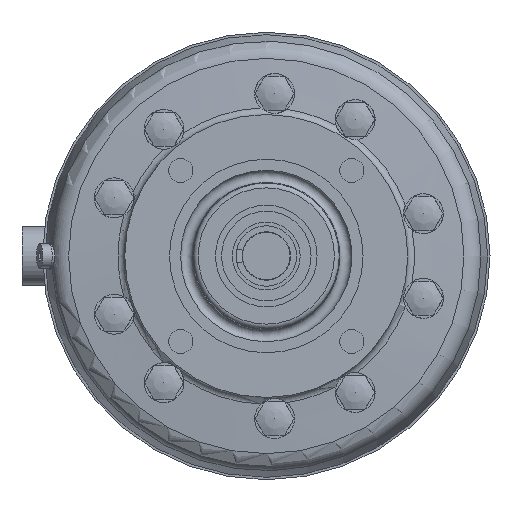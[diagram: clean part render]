
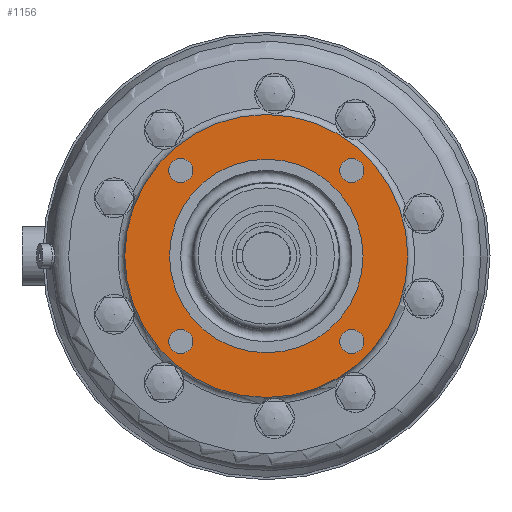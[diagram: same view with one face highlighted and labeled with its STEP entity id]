
A CAD part, front view. The second image highlights one B-rep face of the part: STEP entity #1156.
In plain terms, the highlighted planar face has unit normal (0, -1, 0) as drawn and (0, 1, 0) by its records, which use the part's own axes.
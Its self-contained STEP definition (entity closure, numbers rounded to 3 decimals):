
#1156 = ADVANCED_FACE( '', ( #2355, #2356, #2357, #2358, #2359, #2360 ), #2361, .T. );
#2355 = FACE_BOUND( '', #3465, .T. );
#2356 = FACE_BOUND( '', #3466, .T. );
#2357 = FACE_BOUND( '', #3467, .T. );
#2358 = FACE_BOUND( '', #3468, .T. );
#2359 = FACE_BOUND( '', #3469, .T. );
#2360 = FACE_OUTER_BOUND( '', #3470, .T. );
#2361 = PLANE( '', #3471 );
#3465 = EDGE_LOOP( '', ( #5453 ) );
#3466 = EDGE_LOOP( '', ( #5454 ) );
#3467 = EDGE_LOOP( '', ( #5455 ) );
#3468 = EDGE_LOOP( '', ( #5456 ) );
#3469 = EDGE_LOOP( '', ( #5457 ) );
#3470 = EDGE_LOOP( '', ( #5458 ) );
#3471 = AXIS2_PLACEMENT_3D( '', #5459, #5460, #5461 );
#5453 = ORIENTED_EDGE( '', *, *, #6165, .T. );
#5454 = ORIENTED_EDGE( '', *, *, #5925, .F. );
#5455 = ORIENTED_EDGE( '', *, *, #6132, .F. );
#5456 = ORIENTED_EDGE( '', *, *, #6065, .F. );
#5457 = ORIENTED_EDGE( '', *, *, #6181, .F. );
#5458 = ORIENTED_EDGE( '', *, *, #5966, .F. );
#5459 = CARTESIAN_POINT( '', ( 58.5, 36., 0. ) );
#5460 = DIRECTION( '', ( 0., 1., 0. ) );
#5461 = DIRECTION( '', ( 0., 0., 1. ) );
#5925 = EDGE_CURVE( '', #6928, #6928, #6929, .T. );
#5966 = EDGE_CURVE( '', #6990, #6990, #6991, .T. );
#6065 = EDGE_CURVE( '', #7130, #7130, #7131, .T. );
#6132 = EDGE_CURVE( '', #7213, #7213, #7214, .T. );
#6165 = EDGE_CURVE( '', #7251, #7251, #7252, .T. );
#6181 = EDGE_CURVE( '', #7272, #7272, #7273, .T. );
#6928 = VERTEX_POINT( '', #10214 );
#6929 = CIRCLE( '', #10215, 5. );
#6990 = VERTEX_POINT( '', #10325 );
#6991 = CIRCLE( '', #10326, 58.5 );
#7130 = VERTEX_POINT( '', #10578 );
#7131 = CIRCLE( '', #10579, 5. );
#7213 = VERTEX_POINT( '', #10991 );
#7214 = CIRCLE( '', #10992, 5. );
#7251 = VERTEX_POINT( '', #11232 );
#7252 = CIRCLE( '', #11233, 40. );
#7272 = VERTEX_POINT( '', #11271 );
#7273 = CIRCLE( '', #11272, 5. );
#10214 = CARTESIAN_POINT( '', ( 40.355, 36., 35.355 ) );
#10215 = AXIS2_PLACEMENT_3D( '', #11955, #11956, #11957 );
#10325 = CARTESIAN_POINT( '', ( 0., 36., -58.5 ) );
#10326 = AXIS2_PLACEMENT_3D( '', #12021, #12022, #12023 );
#10578 = CARTESIAN_POINT( '', ( -30.355, 36., -35.355 ) );
#10579 = AXIS2_PLACEMENT_3D( '', #12133, #12134, #12135 );
#10991 = CARTESIAN_POINT( '', ( -30.355, 36., 35.355 ) );
#10992 = AXIS2_PLACEMENT_3D( '', #12193, #12194, #12195 );
#11232 = CARTESIAN_POINT( '', ( 0., 36., -40. ) );
#11233 = AXIS2_PLACEMENT_3D( '', #12210, #12211, #12212 );
#11271 = CARTESIAN_POINT( '', ( 40.355, 36., -35.355 ) );
#11272 = AXIS2_PLACEMENT_3D( '', #12222, #12223, #12224 );
#11955 = CARTESIAN_POINT( '', ( 35.355, 36., 35.355 ) );
#11956 = DIRECTION( '', ( 0., 1., 0. ) );
#11957 = DIRECTION( '', ( 1., 0., 0. ) );
#12021 = CARTESIAN_POINT( '', ( 0., 36., 0. ) );
#12022 = DIRECTION( '', ( 0., -1., 0. ) );
#12023 = DIRECTION( '', ( 0., 0., -1. ) );
#12133 = CARTESIAN_POINT( '', ( -35.355, 36., -35.355 ) );
#12134 = DIRECTION( '', ( 0., 1., 0. ) );
#12135 = DIRECTION( '', ( 1., 0., 0. ) );
#12193 = CARTESIAN_POINT( '', ( -35.355, 36., 35.355 ) );
#12194 = DIRECTION( '', ( 0., 1., 0. ) );
#12195 = DIRECTION( '', ( 1., 0., 0. ) );
#12210 = CARTESIAN_POINT( '', ( 0., 36., 0. ) );
#12211 = DIRECTION( '', ( 0., -1., 0. ) );
#12212 = DIRECTION( '', ( 0., 0., -1. ) );
#12222 = CARTESIAN_POINT( '', ( 35.355, 36., -35.355 ) );
#12223 = DIRECTION( '', ( 0., 1., 0. ) );
#12224 = DIRECTION( '', ( 1., 0., 0. ) );
